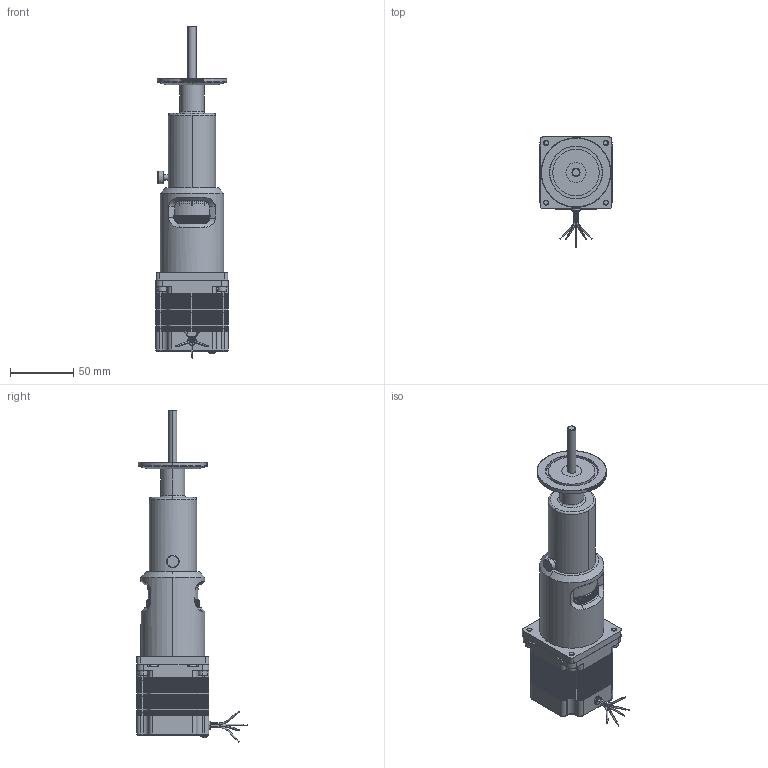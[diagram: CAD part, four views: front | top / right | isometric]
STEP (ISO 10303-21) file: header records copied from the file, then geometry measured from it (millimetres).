
FILE_DESCRIPTION (( 'STEP AP203' ), '1' );
FILE_NAME ('102150.12.stp', '2019-04-18T20:25:56', ( '' ), ( '' ), 'SwSTEP 2.0', 'SolidWorks 2012', '' );
FILE_SCHEMA (( 'CONFIG_CONTROL_DESIGN' ));
Products named in the file (1): 102150.12
Bounding box: 56.9 x 87.06 x 261.91 mm (x, y, z)
Volume: 389354.8 mm3; surface area: 50186.8 mm2
Topology: 1 solids, 6 shells, 3828 faces, 8878 edges, 5126 vertices
Faces by surface type: plane 1811, cylinder 947, cone 877, bspline 193
Entity records: 131922 total; most frequent: CARTESIAN_POINT 46601, DIRECTION 17757, ORIENTED_EDGE 17716, EDGE_CURVE 8858, AXIS2_PLACEMENT_3D 6197, VECTOR 5363, LINE 5363, VERTEX_POINT 5122
